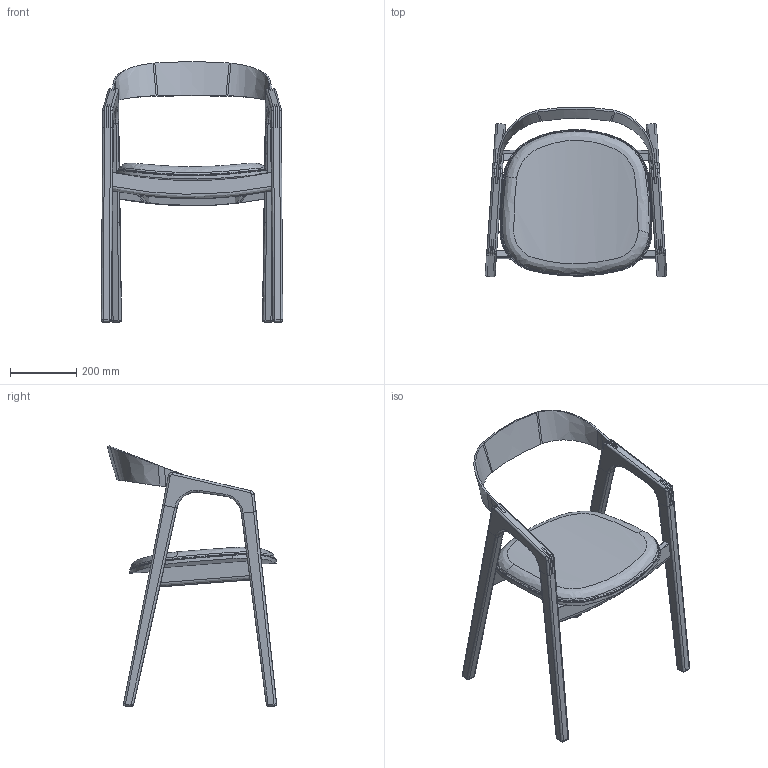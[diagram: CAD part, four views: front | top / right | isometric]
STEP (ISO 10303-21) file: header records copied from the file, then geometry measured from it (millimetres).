
FILE_DESCRIPTION(/* description */ (''),/* implementation_level */ '2;1');
FILE_NAME(/* name */ '240828_Brando Dining chair',/* time_stamp */ '2024-08-28T10:35:50+02:00',/* author */ (''),/* organization */ (''),/* preprocessor_version */ 'ST-DEVELOPER v19.2',/* originating_system */ 'Rhino 8.8',/* authorisation */ '');
FILE_SCHEMA (('AUTOMOTIVE_DESIGN { 1 0 10303 214 3 1 1 }'));
Length unit declared in the file: millimetre
Products named in the file (1): Document
Bounding box: 549.07 x 511.92 x 786.82 mm (x, y, z)
Volume: 8079894.7 mm3; surface area: 1915931.4 mm2
Topology: 16 solids, 19 shells, 452 faces, 1006 edges, 597 vertices
Faces by surface type: bspline 202, cylinder 132, plane 118
Entity records: 19609 total; most frequent: CARTESIAN_POINT 11779, ORIENTED_EDGE 2002, EDGE_CURVE 1006, DIRECTION 832, VERTEX_POINT 597, AXIS2_PLACEMENT_3D 541, EDGE_LOOP 472, B_SPLINE_CURVE_WITH_KNOTS 470
